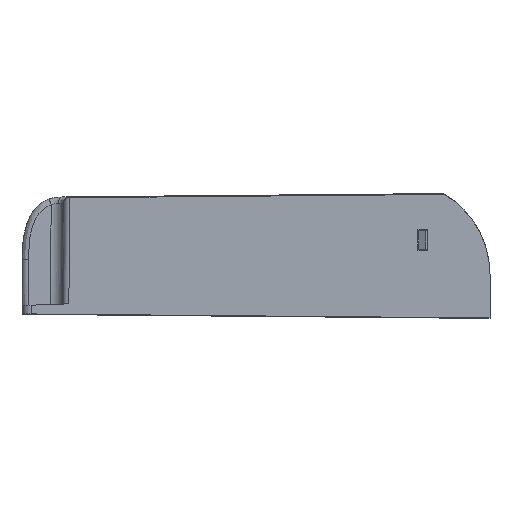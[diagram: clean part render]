
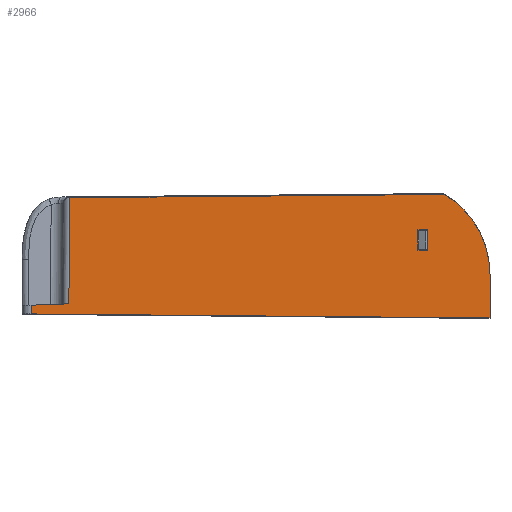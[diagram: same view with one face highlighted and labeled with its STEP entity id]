
A CAD part, top view. The second image highlights one B-rep face of the part: STEP entity #2966.
In plain terms, the highlighted planar face has unit normal (-0.009, 0, 1).
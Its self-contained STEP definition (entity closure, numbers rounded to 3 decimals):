
#476=DIRECTION('',(0.,1.,0.));
#477=VECTOR('',#476,13.888);
#478=CARTESIAN_POINT('',(0.,0.,45.));
#479=LINE('',#478,#477);
#532=DIRECTION('',(-1.,0.,-0.009));
#533=VECTOR('',#532,3.1);
#534=CARTESIAN_POINT('',(-20.,28.25,44.825));
#535=LINE('',#534,#533);
#536=DIRECTION('',(0.,-1.,0.));
#537=VECTOR('',#536,6.5);
#538=CARTESIAN_POINT('',(-23.1,28.25,44.798));
#539=LINE('',#538,#537);
#540=DIRECTION('',(1.,0.,0.009));
#541=VECTOR('',#540,3.1);
#542=CARTESIAN_POINT('',(-23.1,21.75,44.798));
#543=LINE('',#542,#541);
#544=DIRECTION('',(0.,1.,0.));
#545=VECTOR('',#544,6.5);
#546=CARTESIAN_POINT('',(-20.,21.75,44.825));
#547=LINE('',#546,#545);
#548=DIRECTION('',(-1.,-0.009,-0.009));
#549=VECTOR('',#548,120.191);
#550=CARTESIAN_POINT('',(-14.499,39.573,44.873));
#551=LINE('',#550,#549);
#552=CARTESIAN_POINT('',(0.,13.888,45.));
#553=CARTESIAN_POINT('',(0.,16.711,45.));
#554=CARTESIAN_POINT('',(-0.77,21.921,44.993));
#555=CARTESIAN_POINT('',(-3.615,28.783,44.968));
#556=CARTESIAN_POINT('',(-8.02,34.764,44.93));
#557=CARTESIAN_POINT('',(-12.083,38.115,44.895));
#558=CARTESIAN_POINT('',(-14.499,39.573,44.873));
#560=DIRECTION('',(1.,-0.009,0.009));
#561=VECTOR('',#560,147.037);
#562=CARTESIAN_POINT('',(-147.026,1.283,43.717));
#563=LINE('',#562,#561);
#564=DIRECTION('',(0.,1.,0.));
#565=VECTOR('',#564,2.821);
#566=CARTESIAN_POINT('',(-147.026,1.283,43.717));
#567=LINE('',#566,#565);
#568=DIRECTION('',(-0.009,-1.,0.));
#569=VECTOR('',#568,34.001);
#570=CARTESIAN_POINT('',(-134.681,38.525,43.825));
#571=LINE('',#570,#569);
#656=CARTESIAN_POINT('',(-14.499,39.573,44.873));
#708=CARTESIAN_POINT('',(-134.681,38.525,43.825));
#720=CARTESIAN_POINT('',(-134.978,4.525,43.822));
#736=DIRECTION('',(-0.999,-0.035,-0.009));
#737=VECTOR('',#736,12.056);
#738=CARTESIAN_POINT('',(-134.978,4.525,43.822));
#739=LINE('',#738,#737);
#1893=CARTESIAN_POINT('',(0.,13.888,45.));
#1894=VERTEX_POINT('',#1893);
#1947=VERTEX_POINT('',#720);
#1999=CARTESIAN_POINT('',(-20.,28.25,44.825));
#2000=CARTESIAN_POINT('',(-23.1,28.25,44.798));
#2001=VERTEX_POINT('',#1999);
#2002=VERTEX_POINT('',#2000);
#2003=CARTESIAN_POINT('',(-23.1,21.75,44.798));
#2004=VERTEX_POINT('',#2003);
#2005=CARTESIAN_POINT('',(-20.,21.75,44.825));
#2006=VERTEX_POINT('',#2005);
#2007=CARTESIAN_POINT('',(0.,0.,45.));
#2009=VERTEX_POINT('',#2007);
#2045=CARTESIAN_POINT('',(-147.026,1.283,43.717));
#2046=VERTEX_POINT('',#2045);
#2083=CARTESIAN_POINT('',(-147.026,4.104,43.717));
#2084=VERTEX_POINT('',#2083);
#2309=VERTEX_POINT('',#708);
#2311=VERTEX_POINT('',#656);
#2937=CARTESIAN_POINT('',(0.,-2.255,45.));
#2938=DIRECTION('',(-0.009,0.,1.));
#2939=DIRECTION('',(0.,-1.,0.));
#2940=AXIS2_PLACEMENT_3D('',#2937,#2938,#2939);
#2941=PLANE('',#2940);
#2943=ORIENTED_EDGE('',*,*,#2942,.F.);
#2945=ORIENTED_EDGE('',*,*,#2944,.F.);
#2946=ORIENTED_EDGE('',*,*,#2895,.F.);
#2947=ORIENTED_EDGE('',*,*,#2849,.F.);
#2949=ORIENTED_EDGE('',*,*,#2948,.T.);
#2951=ORIENTED_EDGE('',*,*,#2950,.F.);
#2953=ORIENTED_EDGE('',*,*,#2952,.F.);
#2954=EDGE_LOOP('',(#2943,#2945,#2946,#2947,#2949,#2951,#2953));
#2955=FACE_OUTER_BOUND('',#2954,.F.);
#2957=ORIENTED_EDGE('',*,*,#2956,.T.);
#2959=ORIENTED_EDGE('',*,*,#2958,.T.);
#2961=ORIENTED_EDGE('',*,*,#2960,.T.);
#2963=ORIENTED_EDGE('',*,*,#2962,.T.);
#2964=EDGE_LOOP('',(#2957,#2959,#2961,#2963));
#2965=FACE_BOUND('',#2964,.F.);
#559=B_SPLINE_CURVE_WITH_KNOTS('',3,(#552,#553,#554,#555,#556,#557,#558),
.UNSPECIFIED.,.F.,.F.,(4,1,1,1,4),(0.,0.25,0.5,0.75,1.),
.UNSPECIFIED.);
#2849=EDGE_CURVE('',#2046,#2009,#563,.T.);
#2895=EDGE_CURVE('',#2009,#1894,#479,.T.);
#2942=EDGE_CURVE('',#2311,#2309,#551,.T.);
#2944=EDGE_CURVE('',#1894,#2311,#559,.T.);
#2948=EDGE_CURVE('',#2046,#2084,#567,.T.);
#2950=EDGE_CURVE('',#1947,#2084,#739,.T.);
#2952=EDGE_CURVE('',#2309,#1947,#571,.T.);
#2956=EDGE_CURVE('',#2001,#2002,#535,.T.);
#2958=EDGE_CURVE('',#2002,#2004,#539,.T.);
#2960=EDGE_CURVE('',#2004,#2006,#543,.T.);
#2962=EDGE_CURVE('',#2006,#2001,#547,.T.);
#2966=ADVANCED_FACE('',(#2955,#2965),#2941,.T.);
